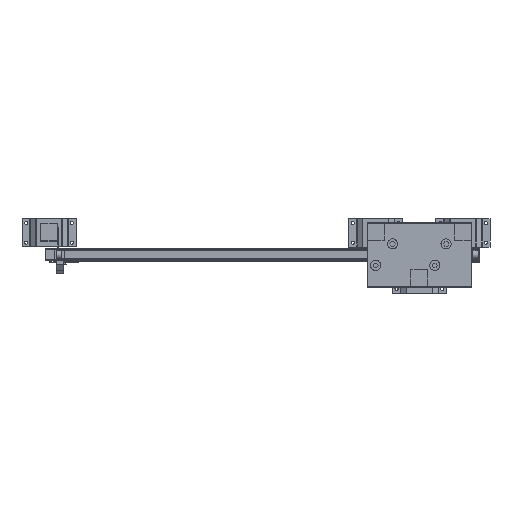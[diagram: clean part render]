
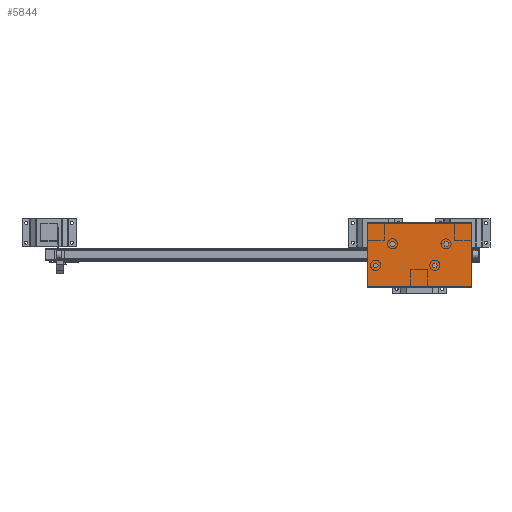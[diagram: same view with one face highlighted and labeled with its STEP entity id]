
A CAD part, top view. The second image highlights one B-rep face of the part: STEP entity #5844.
In plain terms, the highlighted planar face has unit normal (0, 0, 1).
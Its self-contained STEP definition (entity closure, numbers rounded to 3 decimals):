
#671=FACE_OUTER_BOUND('',#1110,.T.);
#1110=EDGE_LOOP('',(#4117,#4118,#4119,#4120));
#1673=VERTEX_POINT('',#13014);
#1674=VERTEX_POINT('',#13015);
#1675=VERTEX_POINT('',#13017);
#1676=VERTEX_POINT('',#13019);
#2580=EDGE_CURVE('',#1673,#1674,#7070,.T.);
#2581=EDGE_CURVE('',#1675,#1673,#7071,.T.);
#2582=EDGE_CURVE('',#1675,#1676,#7072,.T.);
#2583=EDGE_CURVE('',#1674,#1676,#7073,.T.);
#4117=ORIENTED_EDGE('',*,*,#2580,.F.);
#4118=ORIENTED_EDGE('',*,*,#2581,.F.);
#4119=ORIENTED_EDGE('',*,*,#2582,.T.);
#4120=ORIENTED_EDGE('',*,*,#2583,.F.);
#5435=PLANE('',#8922);
#5844=ADVANCED_FACE('',(#671),#5435,.T.);
#7070=LINE('',#13016,#8136);
#7071=LINE('',#13018,#8137);
#7072=LINE('',#13020,#8138);
#7073=LINE('',#13021,#8139);
#8136=VECTOR('',#10343,1.);
#8137=VECTOR('',#10344,1.);
#8138=VECTOR('',#10345,1.);
#8139=VECTOR('',#10346,1.);
#8922=AXIS2_PLACEMENT_3D('',#13013,#10341,#10342);
#10341=DIRECTION('center_axis',(0.,0.,1.));
#10342=DIRECTION('ref_axis',(1.,0.,0.));
#10343=DIRECTION('',(0.,1.,0.));
#10344=DIRECTION('',(-1.,0.,0.));
#10345=DIRECTION('',(0.,1.,0.));
#10346=DIRECTION('',(1.,0.,0.));
#13013=CARTESIAN_POINT('Origin',(3134.404,1784.689,2333.));
#13014=CARTESIAN_POINT('',(3134.404,1784.689,2333.));
#13015=CARTESIAN_POINT('',(3134.404,2014.689,2333.));
#13016=CARTESIAN_POINT('',(3134.404,1784.689,2333.));
#13017=CARTESIAN_POINT('',(3504.404,1784.689,2333.));
#13018=CARTESIAN_POINT('',(3504.404,1784.689,2333.));
#13019=CARTESIAN_POINT('',(3504.404,2014.689,2333.));
#13020=CARTESIAN_POINT('',(3504.404,1784.689,2333.));
#13021=CARTESIAN_POINT('',(3319.404,2014.689,2333.));
